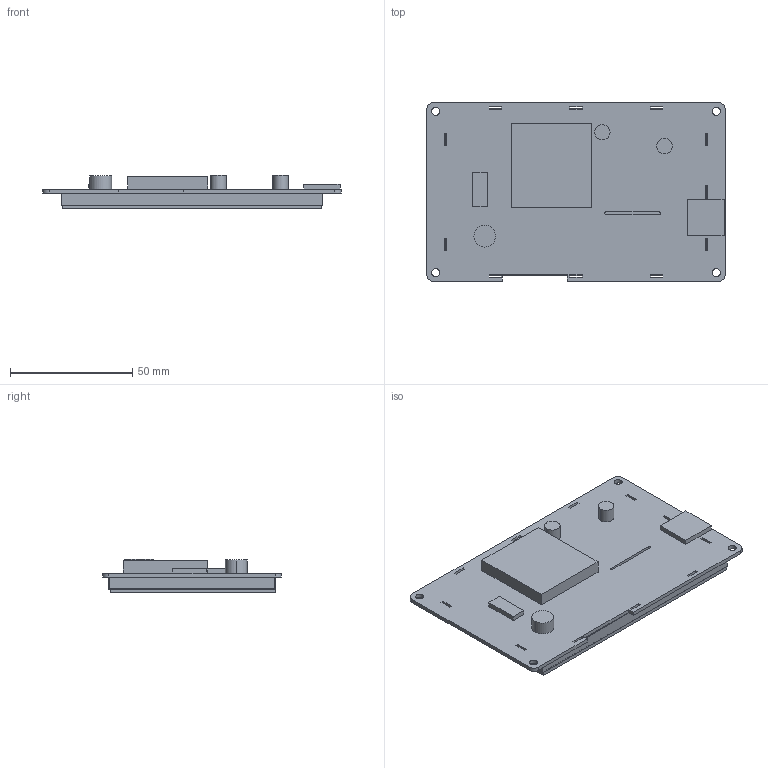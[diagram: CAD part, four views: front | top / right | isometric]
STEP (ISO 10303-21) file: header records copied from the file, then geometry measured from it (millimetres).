
FILE_DESCRIPTION((''),'2;1');
FILE_NAME('3D-DMG48270C043-04WTR','2024-12-19T',('Administrator'),(''),'PRO/ENGINEER BY PARAMETRIC TECHNOLOGY CORPORATION, 2011310','PRO/ENGINEER BY PARAMETRIC TECHNOLOGY CORPORATION, 2011310','');
FILE_SCHEMA(('CONFIG_CONTROL_DESIGN','SHAPE_APPEARANCE_LAYERS_GROUPS'));
Products named in the file (1): 3D-DMG48270C043-04WTR
Bounding box: 121.92 x 73.15 x 13.9 mm (x, y, z)
Volume: 53548.9 mm3; surface area: 50335.9 mm2
Topology: 1 solids, 2 shells, 139 faces, 10250 edges, 11378 vertices
Faces by surface type: plane 119, cylinder 20
Entity records: 128860 total; most frequent: PRESENTATION_STYLE_ASSIGNMENT 15249, STYLED_ITEM 15249, DIRECTION 14342, CURVE_STYLE 12546, CARTESIAN_POINT 10637, TRIMMED_CURVE 9868, COMPOSITE_CURVE_SEGMENT 9861, VECTOR 6440
